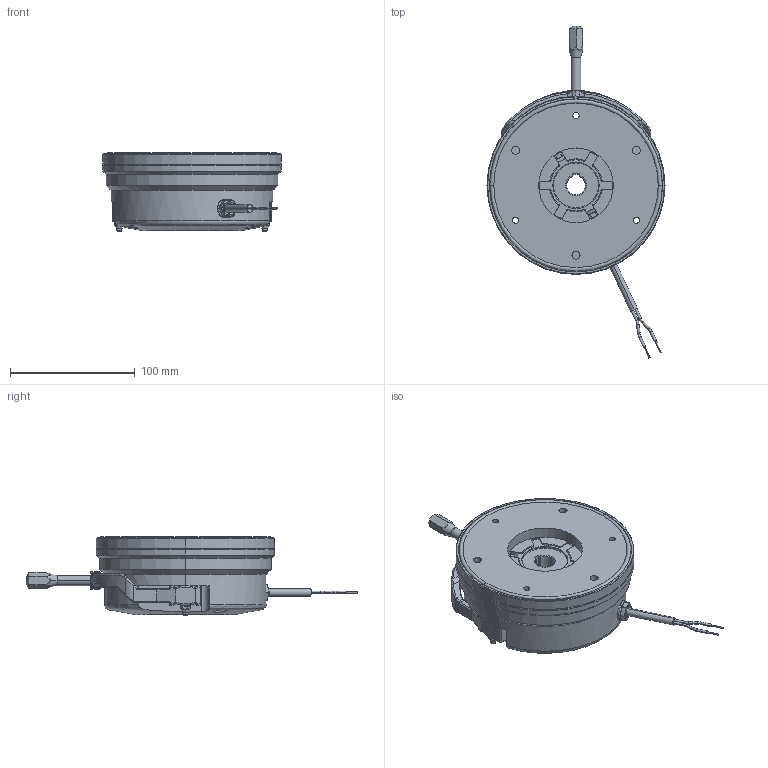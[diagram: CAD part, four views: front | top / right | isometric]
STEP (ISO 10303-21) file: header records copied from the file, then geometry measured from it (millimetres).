
FILE_DESCRIPTION (( 'STEP AP214' ), '1' );
FILE_NAME ('dr_bk_0428-hftw_mu.STEP', '2021-11-26T06:52:33', ( '' ), ( '' ), 'SwSTEP 2.0', 'SolidWorks 2019', '' );
FILE_SCHEMA (( 'AUTOMOTIVE_DESIGN' ));
Length unit declared in the file: millimetre
Products named in the file (11): 10069338_000; 10068618_000_Einbauzustand   ›132 - ›139 - ›2,4; 10068384_000; 10069394_000_A 38 x 18 x 10; 10069329_000; 10068618_000; dr_bk_0428-hftw_mu; 10068383_000; 10068385_000; 10068386_000; 10069307_000
Assembly tree (12 placements, depth 2):
  dr_bk_0428-hftw_mu
    10069329_000
    10068384_000
    10068383_000  x3
    10068385_000
    10068386_000
    10068618_000_Einbauzustand   ›132 - ›139 - ›2,4
    10069307_000
    10069338_000
    10068618_000
    10069394_000_A 38 x 18 x 10
Bounding box: 143 x 266.52 x 62.9 mm (x, y, z)
Volume: 722618.9 mm3; surface area: 185967.3 mm2
Topology: 29 solids, 29 shells, 1165 faces, 2762 edges, 1635 vertices
Faces by surface type: cylinder 464, plane 280, bspline 156, torus 103, cone 102, sphere 60
Entity records: 51708 total; most frequent: CARTESIAN_POINT 17998, DIRECTION 5261, ORIENTED_EDGE 5224, EDGE_CURVE 2612, AXIS2_PLACEMENT_3D 2162, VERTEX_POINT 1571, EDGE_LOOP 1235, CIRCLE 1172
